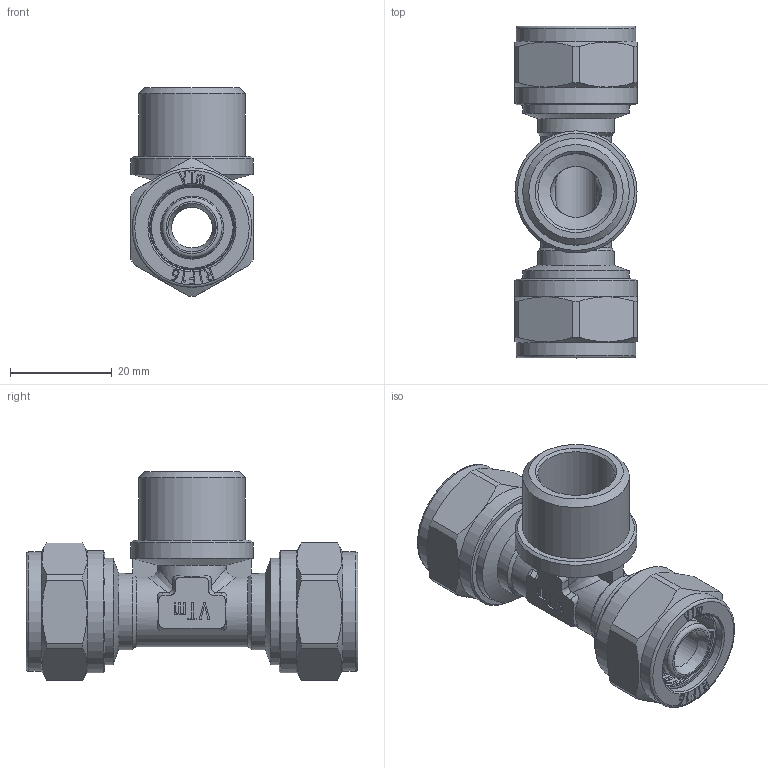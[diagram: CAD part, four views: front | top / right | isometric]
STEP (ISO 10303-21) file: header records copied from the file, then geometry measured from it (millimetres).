
FILE_DESCRIPTION(('STEP AP203'), '1');
FILE_NAME('VTm.333.N.160416', '', ('UNSPECIFIED'), ('UNSPECIFIED'), 'C3D Converter', 'C3D Toolkit', '');
FILE_SCHEMA(('CONFIG_CONTROL_DESIGN'));
Length unit declared in the file: millimetre
Products named in the file (1): ВР.302635.077.000 СБ
Bounding box: 24 x 65.21 x 41 mm (x, y, z)
Volume: 17969.3 mm3; surface area: 15266.9 mm2
Topology: 3 solids, 3 shells, 731 faces, 1989 edges, 1310 vertices
Faces by surface type: extrusion 300, plane 248, cylinder 80, torus 54, cone 43, bspline 4, sphere 2
Full cylindrical faces by diameter (mm): 8 x1, 10 x1, 11.8 x8, 12.4 x2, 15 x3, 16.2 x2, 16.7 x2, 18.632 x2, 20.955 x3, 23.5 x2, 24 x3
Entity records: 26761 total; most frequent: CARTESIAN_POINT 10070, ORIENTED_EDGE 3824, DIRECTION 2450, EDGE_CURVE 1912, VERTEX_POINT 1310, VECTOR 1164, B_SPLINE_CURVE_WITH_KNOTS 1071, LINE 864
